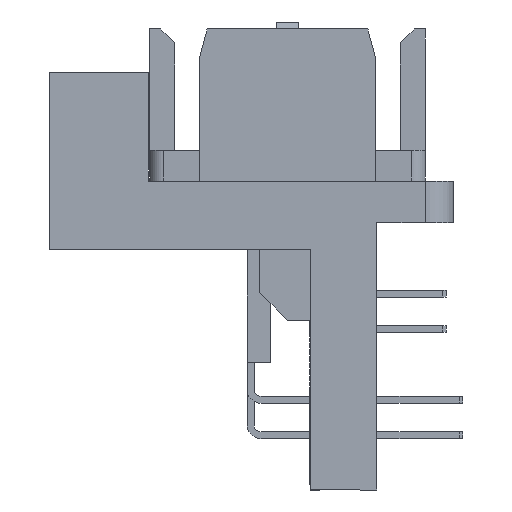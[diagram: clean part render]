
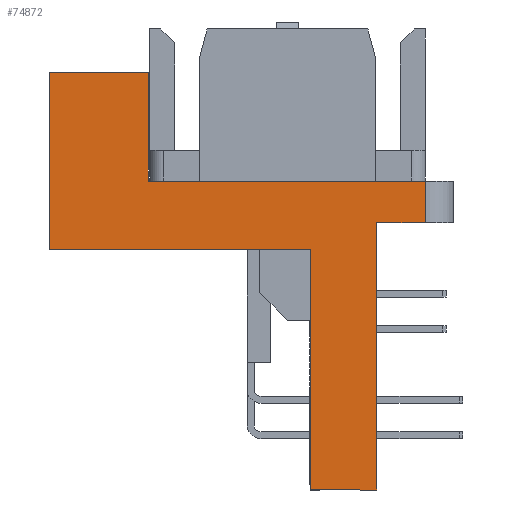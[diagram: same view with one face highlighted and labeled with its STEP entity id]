
A CAD part, left-side view. The second image highlights one B-rep face of the part: STEP entity #74872.
In plain terms, the highlighted planar face has unit normal (-1, 0, 0).
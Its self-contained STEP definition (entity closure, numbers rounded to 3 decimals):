
#262 = LINE ( 'NONE', #25783, #12226 ) ;
#2716 = CARTESIAN_POINT ( 'NONE',  ( -31., 8.56, -7.92 ) ) ;
#3218 = EDGE_CURVE ( 'NONE', #101835, #16792, #13250, .T. ) ;
#3838 = VERTEX_POINT ( 'NONE', #40730 ) ;
#4610 = DIRECTION ( 'NONE',  ( 0., 1., 0. ) ) ;
#5839 = LINE ( 'NONE', #93534, #6381 ) ;
#6373 = ORIENTED_EDGE ( 'NONE', *, *, #3218, .T. ) ;
#6381 = VECTOR ( 'NONE', #77348, 1000. ) ;
#7720 = ORIENTED_EDGE ( 'NONE', *, *, #57708, .F. ) ;
#8013 = VECTOR ( 'NONE', #9315, 1000. ) ;
#8287 = CARTESIAN_POINT ( 'NONE',  ( -31., -3.2, -16.55 ) ) ;
#8316 = AXIS2_PLACEMENT_3D ( 'NONE', #68492, #11605, #60656 ) ;
#9315 = DIRECTION ( 'NONE',  ( 0., 0., 1. ) ) ;
#11044 = EDGE_CURVE ( 'NONE', #3838, #102298, #78941, .T. ) ;
#11352 = CARTESIAN_POINT ( 'NONE',  ( -31., -3.2, -6.96 ) ) ;
#11605 = DIRECTION ( 'NONE',  ( 1., 0., 0. ) ) ;
#12226 = VECTOR ( 'NONE', #49290, 1000. ) ;
#13158 = FACE_OUTER_BOUND ( 'NONE', #50328, .T. ) ;
#13250 = LINE ( 'NONE', #21067, #21366 ) ;
#13707 = DIRECTION ( 'NONE',  ( 0., 0., 1. ) ) ;
#14031 = LINE ( 'NONE', #69882, #18213 ) ;
#15572 = DIRECTION ( 'NONE',  ( 0., -1., 0. ) ) ;
#16792 = VERTEX_POINT ( 'NONE', #71155 ) ;
#16972 = VERTEX_POINT ( 'NONE', #2716 ) ;
#17733 = CARTESIAN_POINT ( 'NONE',  ( -31., -0.82, -7.92 ) ) ;
#18213 = VECTOR ( 'NONE', #15572, 1000. ) ;
#21067 = CARTESIAN_POINT ( 'NONE',  ( -31., 8.56, -1.56 ) ) ;
#21139 = ORIENTED_EDGE ( 'NONE', *, *, #88806, .T. ) ;
#21366 = VECTOR ( 'NONE', #78483, 1000. ) ;
#22920 = VERTEX_POINT ( 'NONE', #81996 ) ;
#23331 = EDGE_CURVE ( 'NONE', #53983, #57249, #80840, .T. ) ;
#24530 = VECTOR ( 'NONE', #40018, 1000. ) ;
#25783 = CARTESIAN_POINT ( 'NONE',  ( -31., 7.06, -6.96 ) ) ;
#26040 = EDGE_CURVE ( 'NONE', #3838, #53983, #14031, .T. ) ;
#26140 = CARTESIAN_POINT ( 'NONE',  ( -31., -3.2, -16.55 ) ) ;
#32130 = EDGE_CURVE ( 'NONE', #22920, #57249, #262, .T. ) ;
#32686 = CARTESIAN_POINT ( 'NONE',  ( -31., -4.95, -6.96 ) ) ;
#34926 = VECTOR ( 'NONE', #52582, 1000. ) ;
#37754 = ORIENTED_EDGE ( 'NONE', *, *, #41198, .T. ) ;
#40018 = DIRECTION ( 'NONE',  ( 0., 0., 1. ) ) ;
#40730 = CARTESIAN_POINT ( 'NONE',  ( -31., -0.82, -16.55 ) ) ;
#41198 = EDGE_CURVE ( 'NONE', #16972, #102298, #61443, .T. ) ;
#45429 = VERTEX_POINT ( 'NONE', #61273 ) ;
#46024 = VECTOR ( 'NONE', #88761, 1000. ) ;
#47449 = VERTEX_POINT ( 'NONE', #59329 ) ;
#49290 = DIRECTION ( 'NONE',  ( 0., 1., 0. ) ) ;
#50328 = EDGE_LOOP ( 'NONE', ( #21139, #7720, #6373, #92653, #37754, #77288, #95149, #96269, #72406, #52926 ) ) ;
#52582 = DIRECTION ( 'NONE',  ( 0., -1., 0. ) ) ;
#52625 = CARTESIAN_POINT ( 'NONE',  ( -31., 7.06, -5.46 ) ) ;
#52926 = ORIENTED_EDGE ( 'NONE', *, *, #94237, .T. ) ;
#53345 = PLANE ( 'NONE',  #8316 ) ;
#53983 = VERTEX_POINT ( 'NONE', #26140 ) ;
#55644 = VECTOR ( 'NONE', #4610, 1000. ) ;
#57249 = VERTEX_POINT ( 'NONE', #11352 ) ;
#57708 = EDGE_CURVE ( 'NONE', #101835, #45429, #5839, .T. ) ;
#59329 = CARTESIAN_POINT ( 'NONE',  ( -31., -4.95, -5.46 ) ) ;
#60656 = DIRECTION ( 'NONE',  ( 0., 0., -1. ) ) ;
#61273 = CARTESIAN_POINT ( 'NONE',  ( -31., 5., -5.46 ) ) ;
#61443 = LINE ( 'NONE', #101125, #34926 ) ;
#68492 = CARTESIAN_POINT ( 'NONE',  ( -31., 7.06, -6.96 ) ) ;
#69882 = CARTESIAN_POINT ( 'NONE',  ( -31., -0.82, -16.55 ) ) ;
#70347 = EDGE_CURVE ( 'NONE', #16792, #16972, #96081, .T. ) ;
#71155 = CARTESIAN_POINT ( 'NONE',  ( -31., 8.56, -1.56 ) ) ;
#72406 = ORIENTED_EDGE ( 'NONE', *, *, #32130, .F. ) ;
#74872 = ADVANCED_FACE ( 'NONE', ( #13158 ), #53345, .F. ) ;
#77288 = ORIENTED_EDGE ( 'NONE', *, *, #11044, .F. ) ;
#77348 = DIRECTION ( 'NONE',  ( 0., 0., -1. ) ) ;
#78483 = DIRECTION ( 'NONE',  ( 0., 1., 0. ) ) ;
#78941 = LINE ( 'NONE', #102938, #79748 ) ;
#79748 = VECTOR ( 'NONE', #13707, 1000. ) ;
#80009 = CARTESIAN_POINT ( 'NONE',  ( -31., 5., -1.56 ) ) ;
#80840 = LINE ( 'NONE', #8287, #8013 ) ;
#81972 = CARTESIAN_POINT ( 'NONE',  ( -31., 8.56, -1.56 ) ) ;
#81996 = CARTESIAN_POINT ( 'NONE',  ( -31., -4.95, -6.96 ) ) ;
#83968 = LINE ( 'NONE', #52625, #55644 ) ;
#86517 = LINE ( 'NONE', #32686, #24530 ) ;
#88761 = DIRECTION ( 'NONE',  ( 0., 0., -1. ) ) ;
#88806 = EDGE_CURVE ( 'NONE', #47449, #45429, #83968, .T. ) ;
#92653 = ORIENTED_EDGE ( 'NONE', *, *, #70347, .T. ) ;
#93534 = CARTESIAN_POINT ( 'NONE',  ( -31., 5., -1.56 ) ) ;
#94237 = EDGE_CURVE ( 'NONE', #22920, #47449, #86517, .T. ) ;
#95149 = ORIENTED_EDGE ( 'NONE', *, *, #26040, .T. ) ;
#96081 = LINE ( 'NONE', #81972, #46024 ) ;
#96269 = ORIENTED_EDGE ( 'NONE', *, *, #23331, .T. ) ;
#101125 = CARTESIAN_POINT ( 'NONE',  ( -31., 8.56, -7.92 ) ) ;
#101835 = VERTEX_POINT ( 'NONE', #80009 ) ;
#102298 = VERTEX_POINT ( 'NONE', #17733 ) ;
#102938 = CARTESIAN_POINT ( 'NONE',  ( -31., -0.82, -16.55 ) ) ;
